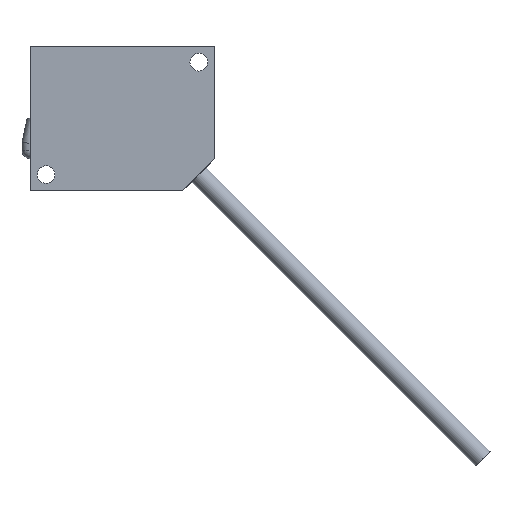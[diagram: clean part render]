
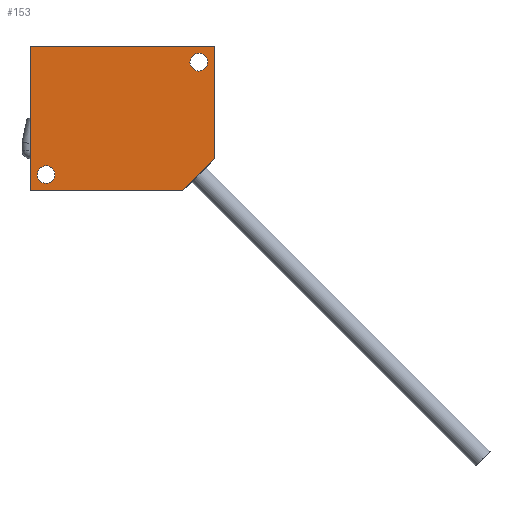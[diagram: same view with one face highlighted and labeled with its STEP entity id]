
A CAD part, left-side view. The second image highlights one B-rep face of the part: STEP entity #153.
In plain terms, the highlighted planar face has unit normal (-1, 0, 0).
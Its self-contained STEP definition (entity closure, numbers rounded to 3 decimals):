
#106 = EDGE_CURVE ( 'NONE', #132, #344, #572, .T. ) ;
#113 = EDGE_CURVE ( 'NONE', #318, #387, #557, .T. ) ;
#132 = VERTEX_POINT ( 'NONE', #689 ) ;
#138 = ORIENTED_EDGE ( 'NONE', *, *, #106, .F. ) ;
#140 = EDGE_LOOP ( 'NONE', ( #148, #271 ) ) ;
#148 = ORIENTED_EDGE ( 'NONE', *, *, #149, .T. ) ;
#149 = EDGE_CURVE ( 'NONE', #231, #227, #594, .T. ) ;
#152 = ORIENTED_EDGE ( 'NONE', *, *, #165, .F. ) ;
#153 = ADVANCED_FACE ( 'NONE', ( #686, #585, #579 ), #657, .F. ) ;
#154 = ORIENTED_EDGE ( 'NONE', *, *, #155, .T. ) ;
#155 = EDGE_CURVE ( 'NONE', #315, #364, #551, .T. ) ;
#156 = EDGE_LOOP ( 'NONE', ( #157, #250, #248, #138, #152 ) ) ;
#157 = ORIENTED_EDGE ( 'NONE', *, *, #365, .F. ) ;
#158 = EDGE_LOOP ( 'NONE', ( #154, #246 ) ) ;
#165 = EDGE_CURVE ( 'NONE', #327, #132, #522, .T. ) ;
#227 = VERTEX_POINT ( 'NONE', #807 ) ;
#229 = EDGE_CURVE ( 'NONE', #227, #231, #841, .T. ) ;
#231 = VERTEX_POINT ( 'NONE', #797 ) ;
#246 = ORIENTED_EDGE ( 'NONE', *, *, #360, .T. ) ;
#248 = ORIENTED_EDGE ( 'NONE', *, *, #386, .F. ) ;
#250 = ORIENTED_EDGE ( 'NONE', *, *, #113, .F. ) ;
#271 = ORIENTED_EDGE ( 'NONE', *, *, #229, .T. ) ;
#315 = VERTEX_POINT ( 'NONE', #900 ) ;
#318 = VERTEX_POINT ( 'NONE', #879 ) ;
#327 = VERTEX_POINT ( 'NONE', #880 ) ;
#344 = VERTEX_POINT ( 'NONE', #886 ) ;
#360 = EDGE_CURVE ( 'NONE', #364, #315, #1010, .T. ) ;
#364 = VERTEX_POINT ( 'NONE', #986 ) ;
#365 = EDGE_CURVE ( 'NONE', #387, #327, #914, .T. ) ;
#386 = EDGE_CURVE ( 'NONE', #344, #318, #930, .T. ) ;
#387 = VERTEX_POINT ( 'NONE', #939 ) ;
#522 = LINE ( 'NONE', #608, #607 ) ;
#529 = DIRECTION ( 'NONE',  ( 0., 0., -1. ) ) ;
#544 = DIRECTION ( 'NONE',  ( 1., 0., 0. ) ) ;
#545 = CARTESIAN_POINT ( 'NONE',  ( -4., 1.2, -16. ) ) ;
#546 = AXIS2_PLACEMENT_3D ( 'NONE', #545, #544, #529 ) ;
#549 = DIRECTION ( 'NONE',  ( 0., 0., -1. ) ) ;
#551 = CIRCLE ( 'NONE', #546, 1.1 ) ;
#552 = VECTOR ( 'NONE', #660, 1000. ) ;
#553 = CARTESIAN_POINT ( 'NONE',  ( -4., -15.8, -18. ) ) ;
#557 = LINE ( 'NONE', #553, #552 ) ;
#564 = DIRECTION ( 'NONE',  ( 0., 0., -1. ) ) ;
#565 = VECTOR ( 'NONE', #564, 1000. ) ;
#566 = CARTESIAN_POINT ( 'NONE',  ( -4., -19.8, 0. ) ) ;
#572 = LINE ( 'NONE', #566, #565 ) ;
#578 = AXIS2_PLACEMENT_3D ( 'NONE', #590, #592, #549 ) ;
#579 = FACE_OUTER_BOUND ( 'NONE', #156, .T. ) ;
#580 = DIRECTION ( 'NONE',  ( 0., 0., -1. ) ) ;
#581 = DIRECTION ( 'NONE',  ( 1., 0., 0. ) ) ;
#582 = CARTESIAN_POINT ( 'NONE',  ( -4., -17.8, -2. ) ) ;
#585 = FACE_BOUND ( 'NONE', #158, .T. ) ;
#590 = CARTESIAN_POINT ( 'NONE',  ( -4., 3.2, 0. ) ) ;
#592 = DIRECTION ( 'NONE',  ( 1., 0., 0. ) ) ;
#594 = CIRCLE ( 'NONE', #595, 1.1 ) ;
#595 = AXIS2_PLACEMENT_3D ( 'NONE', #582, #581, #580 ) ;
#606 = DIRECTION ( 'NONE',  ( 0., -1., 0. ) ) ;
#607 = VECTOR ( 'NONE', #606, 1000. ) ;
#608 = CARTESIAN_POINT ( 'NONE',  ( -4., 3.2, 0. ) ) ;
#657 = PLANE ( 'NONE',  #578 ) ;
#660 = DIRECTION ( 'NONE',  ( 0., 1., 0. ) ) ;
#686 = FACE_BOUND ( 'NONE', #140, .T. ) ;
#689 = CARTESIAN_POINT ( 'NONE',  ( -4., -19.8, 0. ) ) ;
#797 = CARTESIAN_POINT ( 'NONE',  ( -4., -17.8, -3.1 ) ) ;
#798 = DIRECTION ( 'NONE',  ( 1., 0., 0. ) ) ;
#807 = CARTESIAN_POINT ( 'NONE',  ( -4., -17.8, -0.9 ) ) ;
#832 = CARTESIAN_POINT ( 'NONE',  ( -4., -17.8, -2. ) ) ;
#839 = DIRECTION ( 'NONE',  ( 0., 0., -1. ) ) ;
#841 = CIRCLE ( 'NONE', #842, 1.1 ) ;
#842 = AXIS2_PLACEMENT_3D ( 'NONE', #832, #798, #839 ) ;
#879 = CARTESIAN_POINT ( 'NONE',  ( -4., -15.8, -18. ) ) ;
#880 = CARTESIAN_POINT ( 'NONE',  ( -4., 3.2, 0. ) ) ;
#886 = CARTESIAN_POINT ( 'NONE',  ( -4., -19.8, -14. ) ) ;
#900 = CARTESIAN_POINT ( 'NONE',  ( -4., 1.2, -17.1 ) ) ;
#908 = DIRECTION ( 'NONE',  ( 0., 0., 1. ) ) ;
#909 = VECTOR ( 'NONE', #908, 1000. ) ;
#913 = CARTESIAN_POINT ( 'NONE',  ( -4., 3.2, -18. ) ) ;
#914 = LINE ( 'NONE', #913, #909 ) ;
#916 = DIRECTION ( 'NONE',  ( 0., 0., -1. ) ) ;
#917 = DIRECTION ( 'NONE',  ( 1., 0., 0. ) ) ;
#927 = DIRECTION ( 'NONE',  ( 0., 0.707, -0.707 ) ) ;
#928 = VECTOR ( 'NONE', #927, 1000. ) ;
#929 = CARTESIAN_POINT ( 'NONE',  ( -4., -19.8, -14. ) ) ;
#930 = LINE ( 'NONE', #929, #928 ) ;
#939 = CARTESIAN_POINT ( 'NONE',  ( -4., 3.2, -18. ) ) ;
#984 = AXIS2_PLACEMENT_3D ( 'NONE', #1016, #917, #916 ) ;
#986 = CARTESIAN_POINT ( 'NONE',  ( -4., 1.2, -14.9 ) ) ;
#1010 = CIRCLE ( 'NONE', #984, 1.1 ) ;
#1016 = CARTESIAN_POINT ( 'NONE',  ( -4., 1.2, -16. ) ) ;
